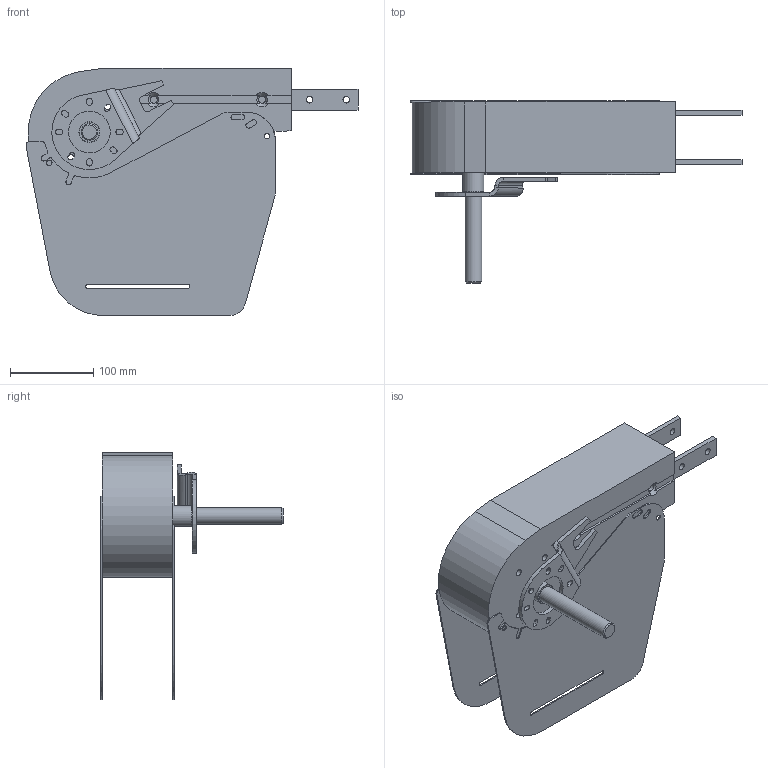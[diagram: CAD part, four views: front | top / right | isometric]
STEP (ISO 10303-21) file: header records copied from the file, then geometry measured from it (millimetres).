
FILE_DESCRIPTION(/* description */ ('Endantriebseinheit FM, heavy, ohne Rutschkupplung, links, offen, direkt'),/* implementation_level */ '2;1');
FILE_NAME(/* name */ 'T:\vdz0\Step Daten Website\modulflex FM-System\Antriebseinheiten rechts - links\FMEB_HNLP-43934.stp',/* time_stamp */ '2024-08-21T09:42:01+02:00',/* author */ ('vdz0'),/* organization */ ('modular automation GmbH'),/* preprocessor_version */ 'ST-DEVELOPER v18.1',/* originating_system */ 'Autodesk Inventor 2021',/* authorisation */ '');
FILE_SCHEMA (('CONFIG_CONTROL_DESIGN'));
Length unit declared in the file: millimetre
Products named in the file (1): FMEB_HNLP-43934
Bounding box: 397.95 x 218.6 x 296.25 mm (x, y, z)
Volume: 3096316.8 mm3; surface area: 376217 mm2
Topology: 2 solids, 3 shells, 229 faces, 608 edges, 396 vertices
Faces by surface type: plane 121, cylinder 92, cone 12, bspline 4
Full cylindrical faces by diameter (mm): 6.5 x4, 8 x8, 8.5 x6, 20 x1, 25 x1, 50 x1
Entity records: 7826 total; most frequent: CARTESIAN_POINT 1706, DIRECTION 1244, ORIENTED_EDGE 1216, EDGE_CURVE 608, AXIS2_PLACEMENT_3D 434, VERTEX_POINT 396, LINE 376, VECTOR 376
